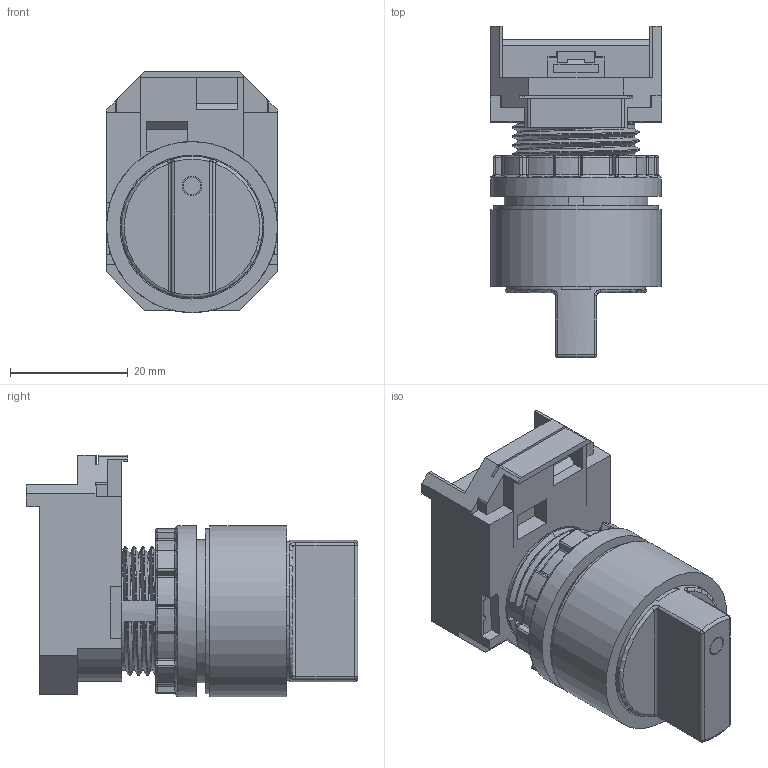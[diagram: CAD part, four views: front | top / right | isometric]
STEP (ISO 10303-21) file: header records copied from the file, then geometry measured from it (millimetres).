
FILE_DESCRIPTION((''),'2;1');
FILE_NAME('E:\WorkFolder\Serie\C2\C2XSN3PB.stp','2009-11-09T13:37:13',('KAP - DIE'),('KAP'),'Autodesk Inventor 10','Autodesk Inventor 10','');
FILE_SCHEMA(('AUTOMOTIVE_DESIGN { 1 0 10303 214 1 1 1 1 }'));
Length unit declared in the file: millimetre
Products named in the file (1): C2XSN3PB
Bounding box: 29 x 56.15 x 40.9 mm (x, y, z)
Volume: 26487.1 mm3; surface area: 11481.7 mm2
Topology: 1 solids, 1 shells, 622 faces, 1659 edges, 1036 vertices
Faces by surface type: plane 296, bspline 146, cylinder 127, sphere 24, torus 22, cone 7
Full cylindrical faces by diameter (mm): 3 x1, 3.3 x1, 3.5 x1, 12 x1, 17 x1, 17.88 x1, 20 x1, 24.4 x1, 28 x1, 29 x2
Entity records: 45592 total; most frequent: CARTESIAN_POINT 30813, ORIENTED_EDGE 3212, DIRECTION 2878, EDGE_CURVE 1606, VERTEX_POINT 1023, AXIS2_PLACEMENT_3D 985, VECTOR 908, LINE 908
